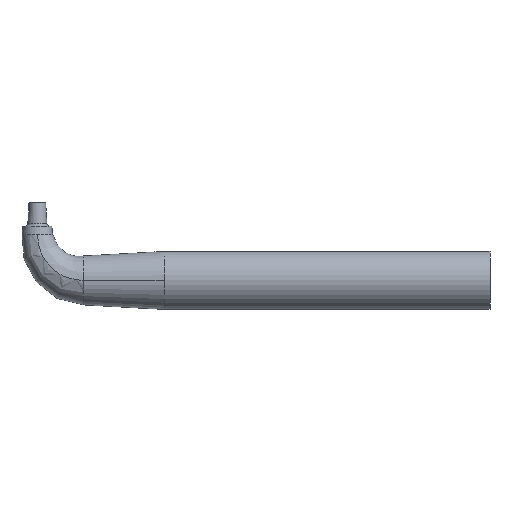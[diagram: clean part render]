
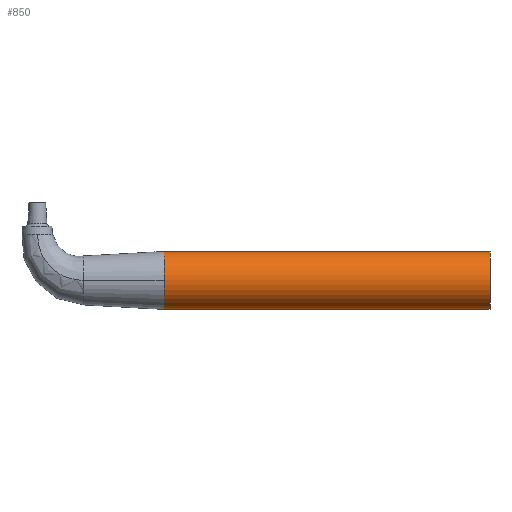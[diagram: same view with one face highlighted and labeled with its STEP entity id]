
A CAD part, top view. The second image highlights one B-rep face of the part: STEP entity #850.
In plain terms, the highlighted cylindrical face has radius 16 mm (diameter 32 mm), a partial arc.
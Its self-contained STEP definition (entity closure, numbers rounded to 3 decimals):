
#850=ADVANCED_FACE('',(#980),#979,.T.);
#979=CYLINDRICAL_SURFACE('',#1319,16.);
#980=FACE_OUTER_BOUND('',#1320,.T.);
#1316=CARTESIAN_POINT('',(312.695,182.717,0.));
#1317=DIRECTION('',(-1.,0.,0.));
#1318=DIRECTION('',(0.,-1.,0.));
#1319=AXIS2_PLACEMENT_3D('',#1316,#1317,#1318);
#1320=EDGE_LOOP('',(#2520,#2521,#2522,#2523,#2524));
#2520=ORIENTED_EDGE('',*,*,#2660,.F.);
#2521=ORIENTED_EDGE('',*,*,#2661,.F.);
#2522=ORIENTED_EDGE('',*,*,#2662,.F.);
#2523=ORIENTED_EDGE('',*,*,#2635,.T.);
#2524=ORIENTED_EDGE('',*,*,#2663,.T.);
#2635=EDGE_CURVE('',#2756,#2755,#2763,.T.);
#2660=EDGE_CURVE('',#2933,#2934,#2935,.T.);
#2661=EDGE_CURVE('',#2941,#2933,#2942,.T.);
#2662=EDGE_CURVE('',#2756,#2941,#2948,.T.);
#2663=EDGE_CURVE('',#2755,#2934,#2954,.T.);
#2755=VERTEX_POINT('',#3230);
#2756=VERTEX_POINT('',#3231);
#2763=CIRCLE('',#3239,16.);
#2933=VERTEX_POINT('',#3358);
#2934=VERTEX_POINT('',#3359);
#2935=CIRCLE('',#3363,16.);
#2941=VERTEX_POINT('',#3364);
#2942=CIRCLE('',#3368,16.);
#2948=(BOUNDED_CURVE() B_SPLINE_CURVE(1,(#3369,#3370),.UNSPECIFIED.,.F.,.F.) B_SPLINE_CURVE_WITH_KNOTS((2,2),(0.05,0.95),.UNSPECIFIED.) CURVE() GEOMETRIC_REPRESENTATION_ITEM() RATIONAL_B_SPLINE_CURVE((1.,1.)) REPRESENTATION_ITEM('') );
#2954=(BOUNDED_CURVE() B_SPLINE_CURVE(1,(#3371,#3372),.UNSPECIFIED.,.F.,.F.) B_SPLINE_CURVE_WITH_KNOTS((2,2),(0.05,0.95),.UNSPECIFIED.) CURVE() GEOMETRIC_REPRESENTATION_ITEM() RATIONAL_B_SPLINE_CURVE((0.75,0.75)) REPRESENTATION_ITEM('') );
#3230=CARTESIAN_POINT('',(492.695,198.717,0.));
#3231=CARTESIAN_POINT('',(492.695,166.717,0.));
#3236=CARTESIAN_POINT('',(492.695,182.717,0.));
#3237=DIRECTION('',(-1.,0.,0.));
#3238=DIRECTION('',(0.,-1.,0.));
#3239=AXIS2_PLACEMENT_3D('',#3236,#3237,#3238);
#3358=CARTESIAN_POINT('',(312.695,182.717,16.));
#3359=CARTESIAN_POINT('',(312.695,198.717,-0.002));
#3360=CARTESIAN_POINT('',(312.695,182.717,0.));
#3361=DIRECTION('',(-1.,0.,0.));
#3362=DIRECTION('',(0.,0.,1.));
#3363=AXIS2_PLACEMENT_3D('',#3360,#3361,#3362);
#3364=CARTESIAN_POINT('',(312.695,166.717,0.));
#3365=CARTESIAN_POINT('',(312.695,182.717,0.));
#3366=DIRECTION('',(-1.,0.,0.));
#3367=DIRECTION('',(0.,0.,1.));
#3368=AXIS2_PLACEMENT_3D('',#3365,#3366,#3367);
#3369=CARTESIAN_POINT('',(492.695,166.717,0.));
#3370=CARTESIAN_POINT('',(312.695,166.717,0.));
#3371=CARTESIAN_POINT('',(492.695,198.717,0.));
#3372=CARTESIAN_POINT('',(312.695,198.717,0.));
